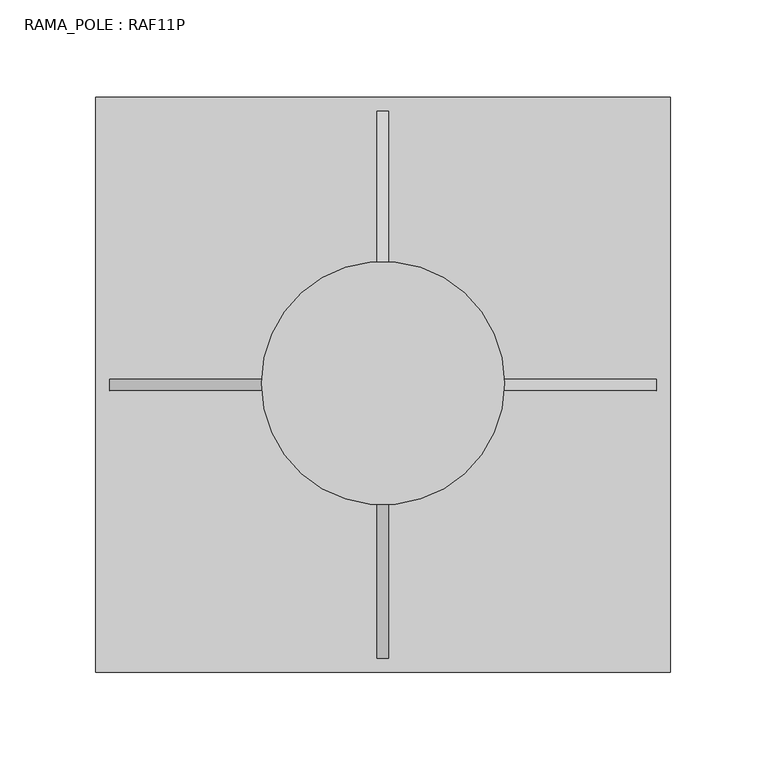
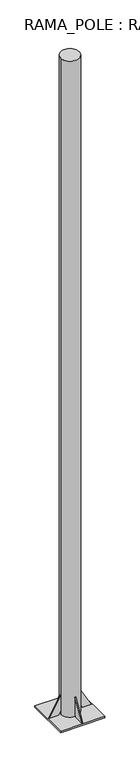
"""IFC4 building model written with IfcOpenShell, lengths in millimetres: light fixture geometry, RAMA_POLE : RAF11P."""

from ifc_helpers import new_model, si_unit, point, frame, origin, origin_2d, place, context, project, spatial, polyline, circle_curve, trimmed, segment, composite_curve, outline, extrude, source, transform, mapped, element, save


def rama_pole_raf11p_10b28745(model_context):
    return source(origin(), model_context, "Body", "SweptSolid", [
        extrude(outline(polyline([(57.15, -40.0), (142.65, -190.0), (79.9181562, -190.0), (57.15, -150.0558663), (57.15, -40.0)])), frame((-3.0, 0.0, 0.0), z_axis=(1.0, 0.0, 0.0), x_axis=(0.0, 1.0, 0.0)), (0.0, 0.0, 1.0), 6.0),
        extrude(outline(polyline([(-57.15, -40.0), (-57.15, -150.0558663), (-79.9181562, -190.0), (-142.65, -190.0), (-57.15, -40.0)])), frame((-3.0, 0.0, 0.0), z_axis=(1.0, 0.0, 0.0), x_axis=(0.0, 1.0, 0.0)), (0.0, 0.0, 1.0), 6.0),
        extrude(outline(polyline([(-40.0, -57.15), (-190.0, -142.65), (-190.0, -79.9181562), (-150.0558663, -57.15), (-40.0, -57.15)])), frame((0.0, -3.0, 0.0), z_axis=(0.0, 1.0, 0.0), x_axis=(0.0, 0.0, 1.0)), (0.0, 0.0, 1.0), 6.0),
        extrude(outline(polyline([(-40.0, 57.15), (-150.0558663, 57.15), (-190.0, 79.9181562), (-190.0, 142.65), (-40.0, 57.15)])), frame((0.0, -3.0, 0.0), z_axis=(0.0, 1.0, 0.0), x_axis=(0.0, 0.0, 1.0)), (0.0, 0.0, 1.0), 6.0),
        extrude(outline(composite_curve([segment(trimmed(circle_curve(origin_2d(), 63.5), [point((-63.5, 0.0))], [point((63.5, 0.0))], False, "CARTESIAN"), True, "CONTINUOUS"), segment(trimmed(circle_curve(origin_2d(), 63.5), [point((63.5, 0.0))], [point((-63.5, 0.0))], False, "CARTESIAN"), True, "CONTINUOUS")], self_intersect=False)), frame((0.0, 0.0, -190.0), z_axis=(0.0, 0.0, 1.0), x_axis=(1.0, 0.0, 0.0)), (0.0, 0.0, 1.0), 4690.0),
        extrude(outline(polyline([(150.0, 150.0), (150.0, -150.0), (-150.0, -150.0), (-150.0, 150.0), (150.0, 150.0)])), frame((0.0, 0.0, -200.0), z_axis=(0.0, 0.0, 1.0), x_axis=(1.0, 0.0, 0.0)), (0.0, 0.0, 1.0), 10.0),
    ])


if __name__ == "__main__":
    model = new_model("IFC4")
    model_context = context("Model", 3, world=origin())
    ifc_project = project(units=[si_unit("LENGTHUNIT", "METRE", prefix="MILLI")], contexts=[model_context])
    site = spatial("IfcSite", under=ifc_project)
    building = spatial("IfcBuilding", under=site)
    placement = place(None, origin())
    rama_pole_raf11p_shape = rama_pole_raf11p_10b28745(model_context)
    element("IfcLightFixture", 1, ObjectType="RAMA_POLE : RAF11P", at=placement, inside=building, context=model_context, shape_type="MappedRepresentation", body=[
        mapped(rama_pole_raf11p_shape, transform((0.0, 0.0, 0.0), x_axis=(1.0, 0.0, 0.0), y_axis=(0.0, 1.0, 0.0), z_axis=(0.0, 0.0, 1.0))),
    ])
    save(model, "model.ifc")
